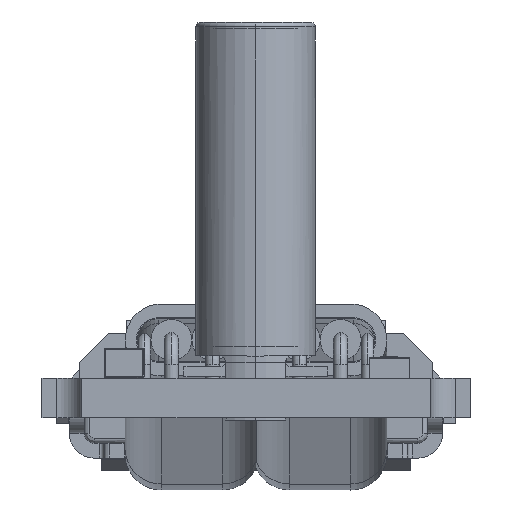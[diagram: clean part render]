
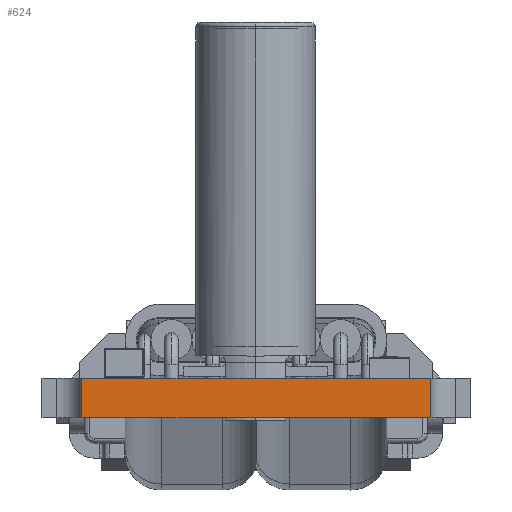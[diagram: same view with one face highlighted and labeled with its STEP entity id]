
A CAD part, front view. The second image highlights one B-rep face of the part: STEP entity #624.
In plain terms, the highlighted planar face has unit normal (0.001, -1, 0).
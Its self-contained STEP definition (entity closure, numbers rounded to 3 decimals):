
#599 = VERTEX_POINT('',#600);
#600 = CARTESIAN_POINT('',(5.265,3.787,0.8));
#606 = EDGE_CURVE('',#607,#599,#609,.T.);
#607 = VERTEX_POINT('',#608);
#608 = CARTESIAN_POINT('',(5.265,3.787,0.));
#609 = LINE('',#610,#611);
#610 = CARTESIAN_POINT('',(5.265,3.787,0.));
#611 = VECTOR('',#612,1.);
#612 = DIRECTION('',(0.,0.,1.));
#624 = ADVANCED_FACE('',(#625),#650,.F.);
#625 = FACE_BOUND('',#626,.F.);
#626 = EDGE_LOOP('',(#627,#628,#636,#644));
#627 = ORIENTED_EDGE('',*,*,#606,.T.);
#628 = ORIENTED_EDGE('',*,*,#629,.T.);
#629 = EDGE_CURVE('',#599,#630,#632,.T.);
#630 = VERTEX_POINT('',#631);
#631 = CARTESIAN_POINT('',(12.271,3.794,0.8));
#632 = LINE('',#633,#634);
#633 = CARTESIAN_POINT('',(5.265,3.787,0.8));
#634 = VECTOR('',#635,1.);
#635 = DIRECTION('',(1.,0.001,0.));
#636 = ORIENTED_EDGE('',*,*,#637,.F.);
#637 = EDGE_CURVE('',#638,#630,#640,.T.);
#638 = VERTEX_POINT('',#639);
#639 = CARTESIAN_POINT('',(12.271,3.794,0.));
#640 = LINE('',#641,#642);
#641 = CARTESIAN_POINT('',(12.271,3.794,0.));
#642 = VECTOR('',#643,1.);
#643 = DIRECTION('',(0.,0.,1.));
#644 = ORIENTED_EDGE('',*,*,#645,.F.);
#645 = EDGE_CURVE('',#607,#638,#646,.T.);
#646 = LINE('',#647,#648);
#647 = CARTESIAN_POINT('',(5.265,3.787,0.));
#648 = VECTOR('',#649,1.);
#649 = DIRECTION('',(1.,0.001,0.));
#650 = PLANE('',#651);
#651 = AXIS2_PLACEMENT_3D('',#652,#653,#654);
#652 = CARTESIAN_POINT('',(5.265,3.787,0.));
#653 = DIRECTION('',(-0.001,1.,0.));
#654 = DIRECTION('',(1.,0.001,0.));
